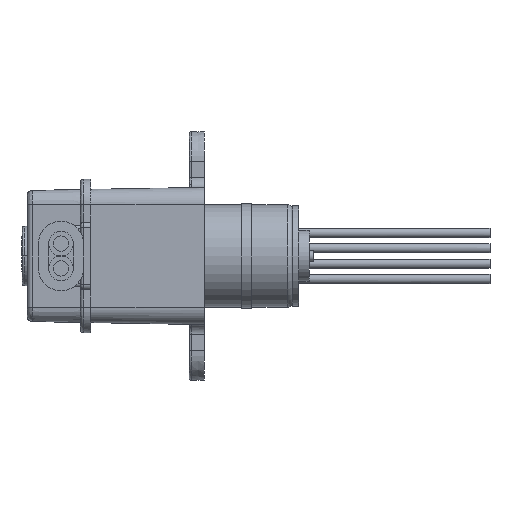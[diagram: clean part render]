
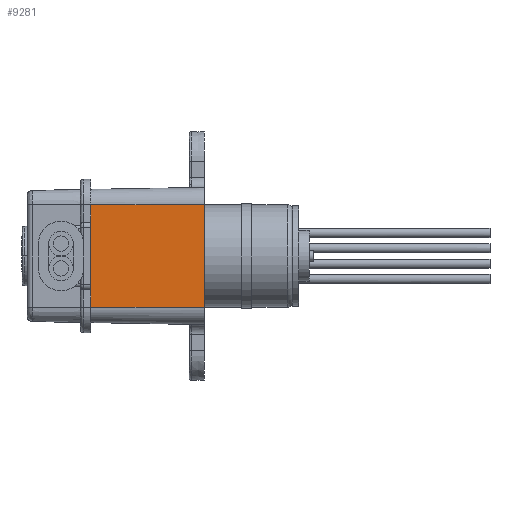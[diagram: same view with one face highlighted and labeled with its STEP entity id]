
A CAD part, left-side view. The second image highlights one B-rep face of the part: STEP entity #9281.
In plain terms, the highlighted planar face has unit normal (-1, 0.018, 0) as drawn and (0, 0.017, -1) by its records, which use the part's own axes.
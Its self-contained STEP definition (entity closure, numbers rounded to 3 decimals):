
#392 = DIRECTION ( 'NONE',  ( 0., 0.017, -1. ) ) ;
#516 = ORIENTED_EDGE ( 'NONE', *, *, #6242, .F. ) ;
#731 = CARTESIAN_POINT ( 'NONE',  ( -5.001, 11.074, -7.5 ) ) ;
#939 = AXIS2_PLACEMENT_3D ( 'NONE', #8325, #392, #1605 ) ;
#1021 = B_SPLINE_CURVE_WITH_KNOTS ( 'NONE', 3,
 ( #1723, #5206, #8746, #731, #4064, #7529, #12131 ),
 .UNSPECIFIED., .F., .F.,
 ( 4, 3, 4 ),
 ( -0.011, 0., 0. ),
 .UNSPECIFIED. ) ;
#1035 = VERTEX_POINT ( 'NONE', #9850 ) ;
#1518 = VERTEX_POINT ( 'NONE', #7035 ) ;
#1605 = DIRECTION ( 'NONE',  ( 0., 1., 0.017 ) ) ;
#1669 = DIRECTION ( 'NONE',  ( -1., 0., 0. ) ) ;
#1723 = CARTESIAN_POINT ( 'NONE',  ( -5., 0., -7.694 ) ) ;
#1864 = CARTESIAN_POINT ( 'NONE',  ( 5., 0., -7.694 ) ) ;
#1924 = EDGE_CURVE ( 'NONE', #12718, #6225, #9822, .T. ) ;
#2053 = LINE ( 'NONE', #10194, #7216 ) ;
#4064 = CARTESIAN_POINT ( 'NONE',  ( -5.001, 11.083, -7.5 ) ) ;
#4215 = ORIENTED_EDGE ( 'NONE', *, *, #13323, .T. ) ;
#4288 = EDGE_LOOP ( 'NONE', ( #13194, #13488, #516, #4215 ) ) ;
#5121 = CARTESIAN_POINT ( 'NONE',  ( 4.937, 3.69, -7.629 ) ) ;
#5206 = CARTESIAN_POINT ( 'NONE',  ( -4.937, 3.69, -7.629 ) ) ;
#6225 = VERTEX_POINT ( 'NONE', #14573 ) ;
#6236 = CARTESIAN_POINT ( 'NONE',  ( 5.001, 11.083, -7.5 ) ) ;
#6242 = EDGE_CURVE ( 'NONE', #1518, #1035, #2053, .T. ) ;
#6308 = CARTESIAN_POINT ( 'NONE',  ( 5., 11.1, -7.5 ) ) ;
#6311 = VECTOR ( 'NONE', #1669, 1000. ) ;
#6344 = CARTESIAN_POINT ( 'NONE',  ( 0., 0., -7.694 ) ) ;
#6718 = DIRECTION ( 'NONE',  ( -1., 0., 0. ) ) ;
#7035 = CARTESIAN_POINT ( 'NONE',  ( 5., 11.1, -7.5 ) ) ;
#7216 = VECTOR ( 'NONE', #6718, 1000. ) ;
#7515 = CARTESIAN_POINT ( 'NONE',  ( 5.065, 7.384, -7.565 ) ) ;
#7529 = CARTESIAN_POINT ( 'NONE',  ( -5., 11.091, -7.5 ) ) ;
#7590 = CARTESIAN_POINT ( 'NONE',  ( 5.001, 11.074, -7.5 ) ) ;
#8325 = CARTESIAN_POINT ( 'NONE',  ( -6.5, 11.1, -7.5 ) ) ;
#8746 = CARTESIAN_POINT ( 'NONE',  ( -5.065, 7.384, -7.565 ) ) ;
#9281 = ADVANCED_FACE ( 'NONE', ( #14041 ), #9532, .T. ) ;
#9532 = PLANE ( 'NONE',  #939 ) ;
#9822 = LINE ( 'NONE', #6344, #6311 ) ;
#9850 = CARTESIAN_POINT ( 'NONE',  ( -5., 11.1, -7.5 ) ) ;
#10194 = CARTESIAN_POINT ( 'NONE',  ( 0., 11.1, -7.5 ) ) ;
#10819 = B_SPLINE_CURVE_WITH_KNOTS ( 'NONE', 3,
 ( #6308, #13319, #6236, #7590, #7515, #5121, #1864 ),
 .UNSPECIFIED., .F., .F.,
 ( 4, 3, 4 ),
 ( -0.011, -0.011, 0. ),
 .UNSPECIFIED. ) ;
#11633 = CARTESIAN_POINT ( 'NONE',  ( 5., 0., -7.694 ) ) ;
#12131 = CARTESIAN_POINT ( 'NONE',  ( -5., 11.1, -7.5 ) ) ;
#12718 = VERTEX_POINT ( 'NONE', #11633 ) ;
#13194 = ORIENTED_EDGE ( 'NONE', *, *, #1924, .T. ) ;
#13319 = CARTESIAN_POINT ( 'NONE',  ( 5., 11.091, -7.5 ) ) ;
#13323 = EDGE_CURVE ( 'NONE', #1518, #12718, #10819, .T. ) ;
#13488 = ORIENTED_EDGE ( 'NONE', *, *, #14680, .T. ) ;
#14041 = FACE_OUTER_BOUND ( 'NONE', #4288, .T. ) ;
#14573 = CARTESIAN_POINT ( 'NONE',  ( -5., 0., -7.694 ) ) ;
#14680 = EDGE_CURVE ( 'NONE', #6225, #1035, #1021, .T. ) ;
